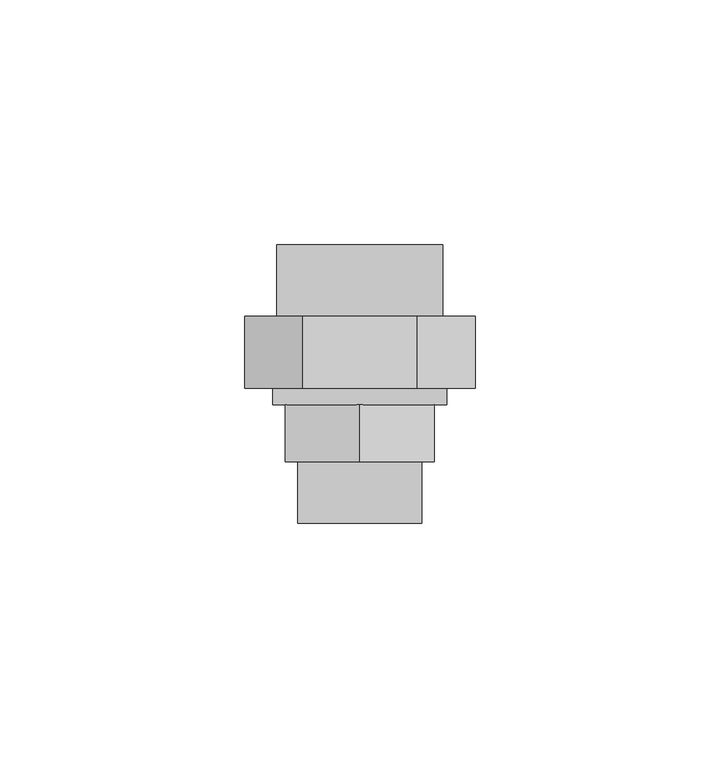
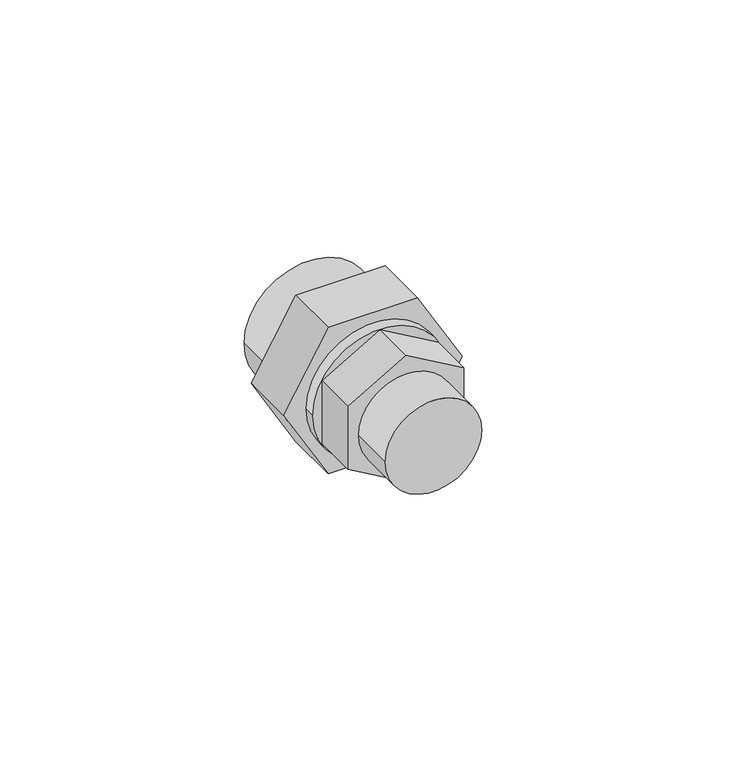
"""IFC4 building model written with IfcOpenShell, lengths in millimetres: pipe fitting geometry, EGB_VASEN_ PPR_Enlace desmontable rosca macho WXR103 : Enlace desmontable rosca macho WXR103."""

from ifc_helpers import new_model, si_unit, point, frame, origin, origin_2d, place, context, project, spatial, polyline, circle_curve, trimmed, segment, composite_curve, outline, extrude, source, transform, mapped, element, save


def pipe_fitting_26452cf3(model_context):
    return source(origin(), model_context, "Body", "SweptSolid", [
        extrude(outline(polyline([(-8.7988181, -15.24), (-17.5976362, 0.0), (-8.7988181, 15.24), (8.7988181, 15.24), (17.5976362, 0.0), (8.7988181, -15.24), (-8.7988181, -15.24)])), frame((0.0, -29.0879167, 0.0), z_axis=(0.0, 1.0, 0.0), x_axis=(0.0, 0.0, 1.0)), (0.0, 0.0, 1.0), 11.6666667),
        extrude(outline(polyline([(0.0, 23.555891), (20.4, 11.7779455), (20.4, -11.7779455), (0.0, -23.555891), (-20.4, -11.7779455), (-20.4, 11.7779455), (0.0, 23.555891)])), frame((0.0, -14.05375, 0.0), z_axis=(0.0, 1.0, 0.0), x_axis=(0.0, 0.0, 1.0)), (0.0, 0.0, 1.0), 14.6666667),
        extrude(outline(composite_curve([segment(trimmed(circle_curve(origin_2d(), 12.7), [point((0.0, -12.7))], [point((0.0, 12.7))], False, "CARTESIAN"), True, "CONTINUOUS"), segment(trimmed(circle_curve(origin_2d(), 12.7), [point((0.0, 12.7))], [point((0.0, -12.7))], False, "CARTESIAN"), True, "CONTINUOUS")], self_intersect=False)), frame((0.0, -41.7204167, 0.0), z_axis=(0.0, 1.0, 0.0), x_axis=(0.0, 0.0, 1.0)), (0.0, 0.0, 1.0), 13.0),
        extrude(outline(composite_curve([segment(trimmed(circle_curve(origin_2d(), 17.82), [point((0.0, -17.82))], [point((0.0, 17.82))], False, "CARTESIAN"), True, "CONTINUOUS"), segment(trimmed(circle_curve(origin_2d(), 17.82), [point((0.0, 17.82))], [point((0.0, -17.82))], False, "CARTESIAN"), True, "CONTINUOUS")], self_intersect=False)), frame((0.0, -17.42125, 0.0), z_axis=(0.0, 1.0, 0.0), x_axis=(0.0, 0.0, 1.0)), (0.0, 0.0, 1.0), 3.3675),
        extrude(outline(composite_curve([segment(trimmed(circle_curve(origin_2d(), 17.0), [point((0.0, -17.0))], [point((0.0, 17.0))], False, "CARTESIAN"), True, "CONTINUOUS"), segment(trimmed(circle_curve(origin_2d(), 17.0), [point((0.0, 17.0))], [point((0.0, -17.0))], False, "CARTESIAN"), True, "CONTINUOUS")], self_intersect=False), holes=[composite_curve([segment(trimmed(circle_curve(origin_2d(), 12.5), [point((0.0, -12.5))], [point((0.0, 12.5))], True, "CARTESIAN"), True, "CONTINUOUS"), segment(trimmed(circle_curve(origin_2d(), 12.5), [point((0.0, 12.5))], [point((0.0, -12.5))], True, "CARTESIAN"), True, "CONTINUOUS")], self_intersect=False)]), frame((0.0, 0.6129167, 0.0), z_axis=(0.0, 1.0, 0.0), x_axis=(0.0, 0.0, 1.0)), (0.0, 0.0, 1.0), 14.6666667),
    ])


if __name__ == "__main__":
    model = new_model("IFC4")
    model_context = context("Model", 3, world=origin())
    ifc_project = project(units=[si_unit("LENGTHUNIT", "METRE", prefix="MILLI")], contexts=[model_context])
    site = spatial("IfcSite", under=ifc_project)
    building = spatial("IfcBuilding", under=site)
    placement = place(None, origin())
    pipe_fitting_shape = pipe_fitting_26452cf3(model_context)
    element("IfcPipeFitting", 1, ObjectType="EGB_VASEN_ PPR_Enlace desmontable rosca macho WXR103 : Enlace desmontable rosca macho WXR103", at=placement, inside=building, context=model_context, shape_type="MappedRepresentation", body=[
        mapped(pipe_fitting_shape, transform((0.0, 0.0, 0.0), x_axis=(1.0, 0.0, 0.0), y_axis=(0.0, 1.0, 0.0), z_axis=(0.0, 0.0, 1.0))),
    ])
    save(model, "model.ifc")
